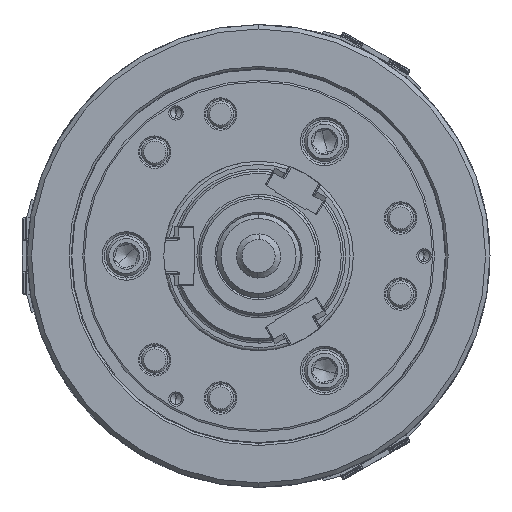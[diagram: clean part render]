
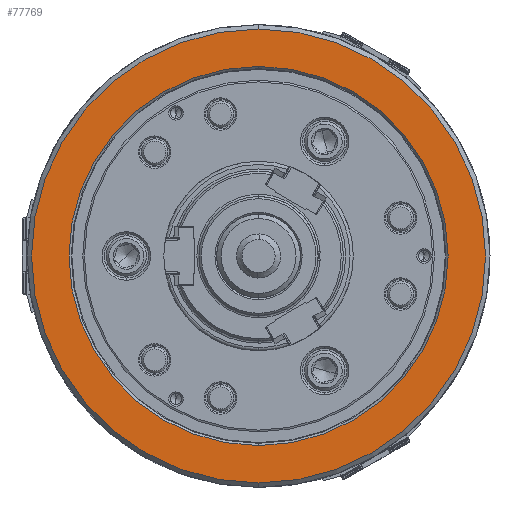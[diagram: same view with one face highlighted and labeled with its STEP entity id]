
A CAD part, left-side view. The second image highlights one B-rep face of the part: STEP entity #77769.
In plain terms, the highlighted planar face has unit normal (-1, 0, 0).
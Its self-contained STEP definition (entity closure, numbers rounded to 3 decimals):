
#1578 = PLANE ( 'NONE',  #107786 ) ;
#3545 = CARTESIAN_POINT ( 'NONE',  ( -85., 0., -86. ) ) ;
#5037 = DIRECTION ( 'NONE',  ( 1., 0., 0. ) ) ;
#8506 = ORIENTED_EDGE ( 'NONE', *, *, #18011, .T. ) ;
#9259 = ORIENTED_EDGE ( 'NONE', *, *, #41410, .T. ) ;
#9566 = CIRCLE ( 'NONE', #23624, 86. ) ;
#14385 = CARTESIAN_POINT ( 'NONE',  ( -85., 0., 0. ) ) ;
#17553 = CARTESIAN_POINT ( 'NONE',  ( -85., 0., 0. ) ) ;
#18011 = EDGE_CURVE ( 'NONE', #33234, #28897, #9566, .T. ) ;
#23624 = AXIS2_PLACEMENT_3D ( 'NONE', #14385, #107469, #47963 ) ;
#25272 = CIRCLE ( 'NONE', #92074, 103. ) ;
#28529 = CARTESIAN_POINT ( 'NONE',  ( -85., 0., 0. ) ) ;
#28897 = VERTEX_POINT ( 'NONE', #3545 ) ;
#30316 = VERTEX_POINT ( 'NONE', #61216 ) ;
#33234 = VERTEX_POINT ( 'NONE', #103261 ) ;
#35153 = DIRECTION ( 'NONE',  ( 0., 0., -1. ) ) ;
#37843 = AXIS2_PLACEMENT_3D ( 'NONE', #73273, #5037, #39130 ) ;
#38938 = DIRECTION ( 'NONE',  ( 1., 0., 0. ) ) ;
#39130 = DIRECTION ( 'NONE',  ( 0., 0., -1. ) ) ;
#41410 = EDGE_CURVE ( 'NONE', #28897, #33234, #100680, .T. ) ;
#43426 = FACE_OUTER_BOUND ( 'NONE', #81821, .T. ) ;
#47963 = DIRECTION ( 'NONE',  ( 0., 0., -1. ) ) ;
#51674 = DIRECTION ( 'NONE',  ( 0., 0., -1. ) ) ;
#52226 = CARTESIAN_POINT ( 'NONE',  ( -85., -103., 0. ) ) ;
#53209 = AXIS2_PLACEMENT_3D ( 'NONE', #28529, #38938, #71468 ) ;
#53927 = ORIENTED_EDGE ( 'NONE', *, *, #90710, .F. ) ;
#58858 = DIRECTION ( 'NONE',  ( 1., 0., 0. ) ) ;
#61216 = CARTESIAN_POINT ( 'NONE',  ( -85., 0., 103. ) ) ;
#64381 = VERTEX_POINT ( 'NONE', #67452 ) ;
#67452 = CARTESIAN_POINT ( 'NONE',  ( -85., 0., -103. ) ) ;
#71468 = DIRECTION ( 'NONE',  ( 0., 0., -1. ) ) ;
#73273 = CARTESIAN_POINT ( 'NONE',  ( -85., 0., 0. ) ) ;
#77027 = FACE_BOUND ( 'NONE', #85369, .T. ) ;
#77769 = ADVANCED_FACE ( 'NONE', ( #43426, #77027 ), #1578, .F. ) ;
#80934 = EDGE_CURVE ( 'NONE', #30316, #64381, #25272, .T. ) ;
#81821 = EDGE_LOOP ( 'NONE', ( #53927, #87937 ) ) ;
#85330 = CIRCLE ( 'NONE', #37843, 103. ) ;
#85369 = EDGE_LOOP ( 'NONE', ( #8506, #9259 ) ) ;
#87937 = ORIENTED_EDGE ( 'NONE', *, *, #80934, .F. ) ;
#90710 = EDGE_CURVE ( 'NONE', #64381, #30316, #85330, .T. ) ;
#92074 = AXIS2_PLACEMENT_3D ( 'NONE', #17553, #99620, #51674 ) ;
#99620 = DIRECTION ( 'NONE',  ( 1., 0., 0. ) ) ;
#100680 = CIRCLE ( 'NONE', #53209, 86. ) ;
#103261 = CARTESIAN_POINT ( 'NONE',  ( -85., 0., 86. ) ) ;
#107469 = DIRECTION ( 'NONE',  ( 1., 0., 0. ) ) ;
#107786 = AXIS2_PLACEMENT_3D ( 'NONE', #52226, #58858, #35153 ) ;
